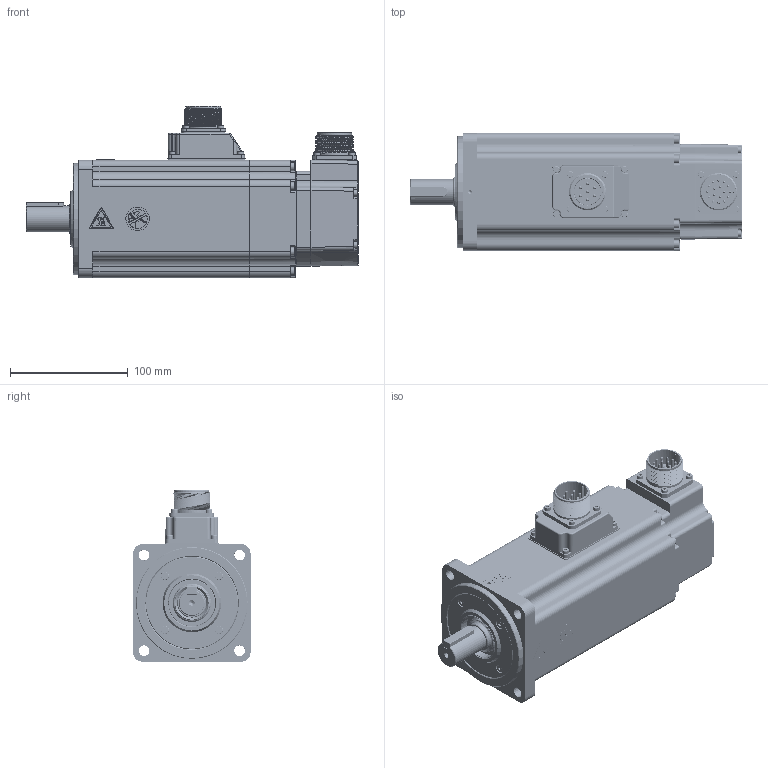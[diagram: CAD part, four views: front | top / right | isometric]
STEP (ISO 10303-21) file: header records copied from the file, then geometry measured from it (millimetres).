
FILE_DESCRIPTION(/* description */ ('AdapterTestApp'),/* implementation_level */ '2;1');
FILE_NAME(/* name */ 'TCE100 4B XX 3 A1 1 C3',/* time_stamp */ '2015-09-02T15:25:49+02:00',/* author */ ('AdapterTestApp'),/* organization */ ('Siemens PLM Software'),/* preprocessor_version */ 'ST-DEVELOPER v15.6',/* originating_system */ 'DEX',/* authorisation */ $);
FILE_SCHEMA (('AUTOMOTIVE_DESIGN {1 0 10303 214 3 1 1}'));
Products named in the file (30): TCE100 4B XX 3 A1 1 C3_vuoto; 003155002049; 005123000420; 005911000203; 003003199428; 003103001511; 001107000620; 003155002050; 005119000312; 005123000500; U5140004 vuoto; 003120002503; 003303000370; 005911000150; 003108002568_90Â°; 005911000201; 003799000580; 003303000373; 005117001750; 005117001754; 005751000300; 005007000130; 005911000212; 005204000002; 005204000003; 003251022001; 005911000183; 005911000493; 005204000001; 005113000596
Assembly tree (57 placements, depth 3):
  TCE100 4B XX 3 A1 1 C3_vuoto
    003155002049
    005123000420
    005911000203  x4
    003003199428
    003103001511
    001107000620
    003155002050
    005119000312
    005123000500
    U5140004 vuoto
      003120002503
      003303000370
      005911000150
      003108002568_90Â°
      005911000201  x8
      003799000580
      003303000373
      005117001750
    005117001754
    005751000300
    005007000130
    003303000373
    005911000212  x8
    005204000002
    005204000003
    003251022001
    005911000201  x4
    005911000183  x4
    005911000493  x4
    005204000001
    005113000596
Bounding box: 282.5 x 100.3 x 145.8 mm (x, y, z)
Volume: 827381.9 mm3; surface area: 352155.1 mm2
Topology: 73 solids, 83 shells, 3046 faces, 7534 edges, 4856 vertices
Faces by surface type: plane 1555, cylinder 736, extrusion 233, cone 174, torus 143, bspline 103, sphere 102
Full cylindrical faces by diameter (mm): 1.7 x2, 2 x35, 2.224 x1, 2.4 x8, 2.459 x23, 2.5 x1, 2.6 x1, 2.8 x7, 3 x34, 3.048 x4, 3.2 x5, 3.242 x42, 3.5 x17, 3.6 x1, 3.7 x8, 3.8 x2, 4 x29, 4.5 x16, 4.7 x11, 4.917 x1, 5.1 x1, 5.5 x31, 5.8 x6, 7 x16, 7.5 x4, 8 x6, 10 x1, 11 x1, 12 x2, 16.2 x1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
Entity records: 92756 total; most frequent: CARTESIAN_POINT 33019, ORIENTED_EDGE 11622, DIRECTION 11575, EDGE_CURVE 5811, VERTEX_POINT 4079, AXIS2_PLACEMENT_3D 4034, FACE_BOUND 3574, EDGE_LOOP 3518
